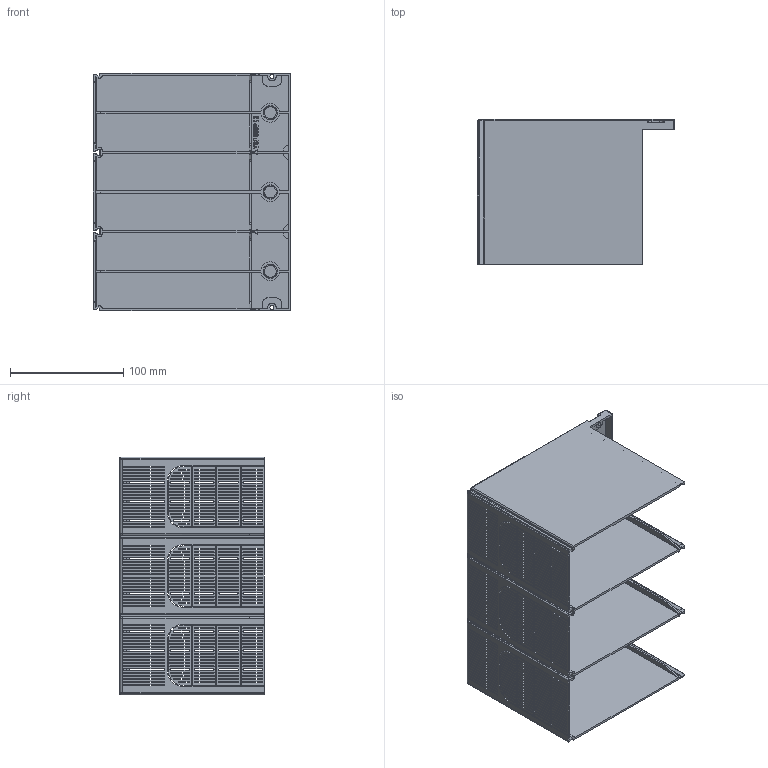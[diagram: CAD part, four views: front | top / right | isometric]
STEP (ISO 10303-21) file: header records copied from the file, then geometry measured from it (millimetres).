
FILE_DESCRIPTION((''),'2;1');
FILE_NAME('U8_3P_LONG_TERMINAL_COVER','2018-06-04T',('HHI'),(''),'PRO/ENGINEER BY PARAMETRIC TECHNOLOGY CORPORATION, 2012453','PRO/ENGINEER BY PARAMETRIC TECHNOLOGY CORPORATION, 2012453','');
FILE_SCHEMA(('CONFIG_CONTROL_DESIGN'));
Products named in the file (1): U8_3P_LONG_TERMINAL_COVER
Bounding box: 174.8 x 128 x 210 mm (x, y, z)
Volume: 280171.5 mm3; surface area: 313137.3 mm2
Topology: 1 solids, 1 shells, 2195 faces, 6786 edges, 4410 vertices
Faces by surface type: plane 1152, cylinder 785, extrusion 120, torus 58, bspline 48, cone 18, sphere 14
Entity records: 79544 total; most frequent: CARTESIAN_POINT 17105, ORIENTED_EDGE 13564, DIRECTION 12350, EDGE_CURVE 6782, VECTOR 4776, LINE 4656, VERTEX_POINT 4410, AXIS2_PLACEMENT_3D 3787
